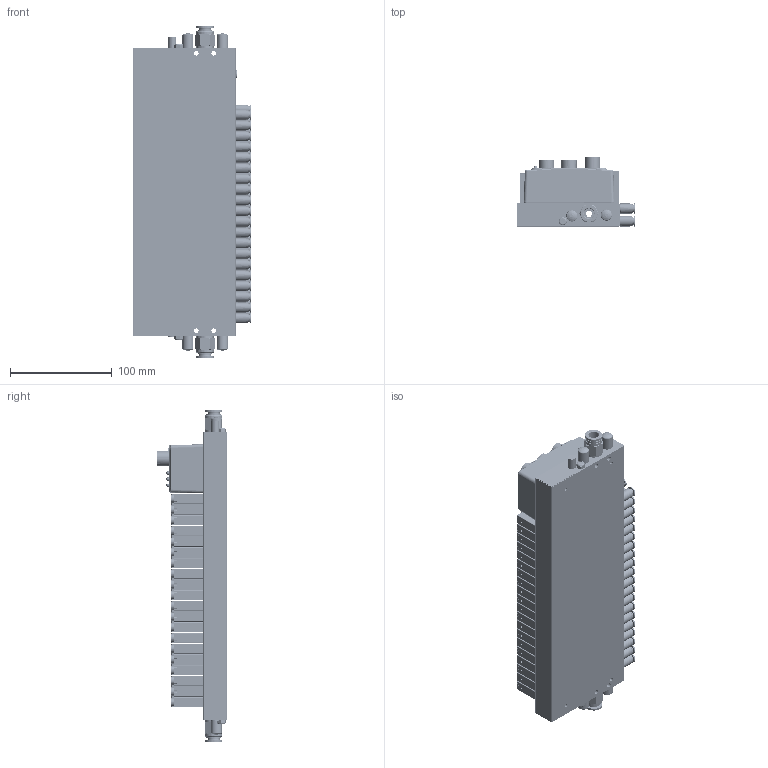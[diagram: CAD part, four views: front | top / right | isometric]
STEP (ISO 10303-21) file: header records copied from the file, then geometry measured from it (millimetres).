
FILE_DESCRIPTION(/* description */ (''),/* implementation_level */ '2;1');
FILE_NAME(/* name */ 'EV-XX-F1-20-X-XX-XX-A-X-C.stp',/* time_stamp */ '2025-10-13T14:13:12+08:00',/* author */ (''),/* organization */ (''),/* preprocessor_version */ 'ST-DEVELOPER v19.4',/* originating_system */ 'SIEMENS PLM Software NX2212.7001',/* authorisation */ '');
FILE_SCHEMA (('AUTOMOTIVE_DESIGN { 1 0 10303 214 3 1 1 1 }'));
Products named in the file (1): EV-PN-F1-H16-L-12-04-A-E-C_stp_objects
Bounding box: 116.5 x 68 x 325.6 mm (x, y, z)
Volume: 1181932.4 mm3; surface area: 410013.2 mm2
Topology: 28 solids, 46 shells, 8528 faces, 20766 edges, 12760 vertices
Faces by surface type: plane 3387, cylinder 3137, torus 1040, sphere 352, cone 330, bspline 282
Full cylindrical faces by diameter (mm): 1 x5, 1.05 x5, 1.5 x20, 1.55 x40, 1.7 x8, 2.05 x4, 2.15 x2, 2.3 x4, 2.48 x4, 2.5 x3, 2.8 x4, 3.3 x4, 3.446 x6, 3.5 x27, 3.7 x1, 4 x64, 4.134 x5, 4.3 x4, 4.5 x124, 5.1 x40, 5.3 x40, 5.4 x2, 5.5 x2, 5.917 x1, 6 x4, 7 x40, 8 x9, 8.3 x40, 8.566 x6, 9 x1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
Entity records: 295713 total; most frequent: CARTESIAN_POINT 62342, DIRECTION 42236, ORIENTED_EDGE 37724, EDGE_CURVE 18862, AXIS2_PLACEMENT_3D 16510, VERTEX_POINT 12224, EDGE_LOOP 10696, LINE 9216
